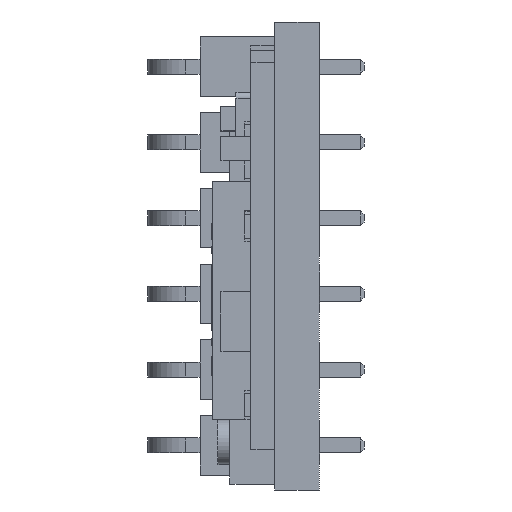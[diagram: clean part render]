
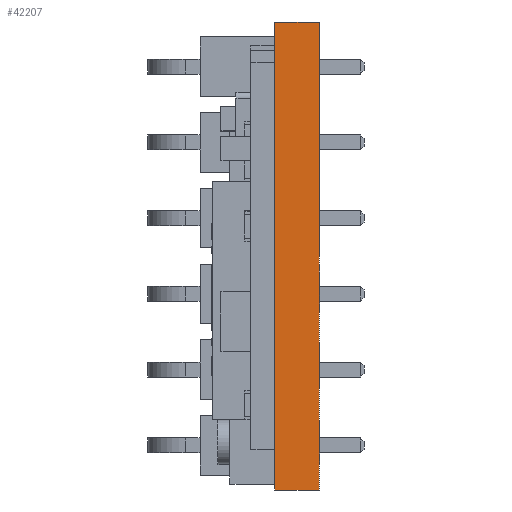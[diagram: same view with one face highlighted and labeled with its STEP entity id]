
A CAD part, left-side view. The second image highlights one B-rep face of the part: STEP entity #42207.
In plain terms, the highlighted planar face has unit normal (-1, 0, 0).
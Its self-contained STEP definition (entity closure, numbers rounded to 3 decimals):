
#1493=FACE_OUTER_BOUND('',#3814,.T.);
#3814=EDGE_LOOP('',(#28306,#28307,#28308,#28309,#28310,#28311,#28312,#28313));
#6200=LINE('',#56462,#11438);
#6625=LINE('',#58635,#11863);
#6629=LINE('',#58643,#11867);
#7439=LINE('',#60975,#12677);
#7440=LINE('',#60977,#12678);
#7441=LINE('',#60979,#12679);
#7442=LINE('',#60980,#12680);
#7443=LINE('',#60981,#12681);
#11438=VECTOR('',#46996,15.7);
#11863=VECTOR('',#47455,1.15);
#11867=VECTOR('',#47459,1.15);
#12677=VECTOR('',#48537,1.5);
#12678=VECTOR('',#48538,0.01);
#12679=VECTOR('',#48539,13.4);
#12680=VECTOR('',#48540,0.01);
#12681=VECTOR('',#48541,1.5);
#16562=VERTEX_POINT('',#56460);
#16563=VERTEX_POINT('',#56461);
#17071=VERTEX_POINT('',#58631);
#17073=VERTEX_POINT('',#58634);
#17076=VERTEX_POINT('',#58640);
#17077=VERTEX_POINT('',#58642);
#17828=VERTEX_POINT('',#60976);
#17829=VERTEX_POINT('',#60978);
#20566=EDGE_CURVE('',#16562,#16563,#6200,.T.);
#21076=EDGE_CURVE('',#17071,#17073,#6625,.T.);
#21080=EDGE_CURVE('',#17076,#17077,#6629,.T.);
#21936=EDGE_CURVE('',#17073,#16563,#7439,.T.);
#21937=EDGE_CURVE('',#17828,#17071,#7440,.T.);
#21938=EDGE_CURVE('',#17829,#17828,#7441,.T.);
#21939=EDGE_CURVE('',#17829,#17077,#7442,.T.);
#21940=EDGE_CURVE('',#17076,#16562,#7443,.T.);
#28306=ORIENTED_EDGE('',*,*,#20566,.T.);
#28307=ORIENTED_EDGE('',*,*,#21936,.F.);
#28308=ORIENTED_EDGE('',*,*,#21076,.F.);
#28309=ORIENTED_EDGE('',*,*,#21937,.F.);
#28310=ORIENTED_EDGE('',*,*,#21938,.F.);
#28311=ORIENTED_EDGE('',*,*,#21939,.T.);
#28312=ORIENTED_EDGE('',*,*,#21080,.F.);
#28313=ORIENTED_EDGE('',*,*,#21940,.T.);
#38115=PLANE('',#44496);
#42207=ADVANCED_FACE('',(#1493),#38115,.F.);
#44496=AXIS2_PLACEMENT_3D('',#60974,#48535,#48536);
#46996=DIRECTION('',(0.,0.,1.));
#47455=DIRECTION('',(0.,0.,1.));
#47459=DIRECTION('',(0.,0.,1.));
#48535=DIRECTION('center_axis',(1.,0.,0.));
#48536=DIRECTION('ref_axis',(0.,0.,-1.));
#48537=DIRECTION('',(0.,-1.,0.));
#48538=DIRECTION('',(0.,-1.,0.));
#48539=DIRECTION('',(0.,0.,1.));
#48540=DIRECTION('',(0.,-1.,0.));
#48541=DIRECTION('',(0.,-1.,0.));
#56460=CARTESIAN_POINT('',(-18.5,0.,-7.85));
#56461=CARTESIAN_POINT('',(-18.5,0.,7.85));
#56462=CARTESIAN_POINT('',(-18.5,0.,-7.85));
#58631=CARTESIAN_POINT('',(-18.5,1.5,6.7));
#58634=CARTESIAN_POINT('',(-18.5,1.5,7.85));
#58635=CARTESIAN_POINT('',(-18.5,1.5,6.7));
#58640=CARTESIAN_POINT('',(-18.5,1.5,-7.85));
#58642=CARTESIAN_POINT('',(-18.5,1.5,-6.7));
#58643=CARTESIAN_POINT('',(-18.5,1.5,-7.85));
#60974=CARTESIAN_POINT('Origin',(-18.5,1.5,-7.85));
#60975=CARTESIAN_POINT('',(-18.5,1.5,7.85));
#60976=CARTESIAN_POINT('',(-18.5,1.51,6.7));
#60977=CARTESIAN_POINT('',(-18.5,1.51,6.7));
#60978=CARTESIAN_POINT('',(-18.5,1.51,-6.7));
#60979=CARTESIAN_POINT('',(-18.5,1.51,-6.7));
#60980=CARTESIAN_POINT('',(-18.5,1.51,-6.7));
#60981=CARTESIAN_POINT('',(-18.5,1.5,-7.85));
